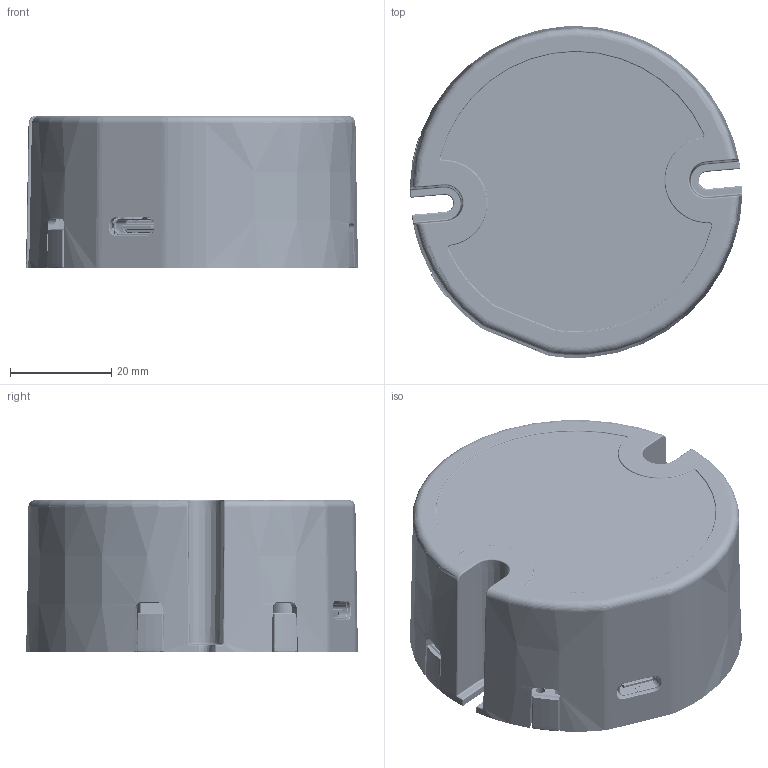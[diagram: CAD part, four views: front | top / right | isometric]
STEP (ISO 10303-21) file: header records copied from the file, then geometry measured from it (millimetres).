
FILE_DESCRIPTION(('Open CASCADE Model'),'2;1');
FILE_NAME('Open CASCADE Shape Model','2023-09-07T15:40:54',('Author'),( 'Open CASCADE'),'Open CASCADE STEP processor 6.8','Open CASCADE 6.8' ,'Unknown');
FILE_SCHEMA(('AUTOMOTIVE_DESIGN { 1 0 10303 214 1 1 1 1 }'));
Products named in the file (1): PCB
Bounding box: 65.48 x 65.45 x 30.08 mm (x, y, z)
Volume: 28451.2 mm3; surface area: 50314.3 mm2
Topology: 402 solids, 2528 shells, 9995 faces, 30555 edges, 23740 vertices
Faces by surface type: plane 6518, cylinder 2120, bspline 925, torus 186, cone 161, sphere 85
Full cylindrical faces by diameter (mm): 0.5 x4, 0.55 x9, 0.6 x6, 0.65 x2, 0.8 x21, 0.85 x4, 0.9 x2, 1 x17, 1.016 x3, 1.9 x4, 3.3 x21, 3.6 x12
Entity records: 396856 total; most frequent: CARTESIAN_POINT 112702, DIRECTION 52114, ORIENTED_EDGE 49204, EDGE_CURVE 29933, VERTEX_POINT 22824, LINE 21462, VECTOR 21462, AXIS2_PLACEMENT_3D 15326
